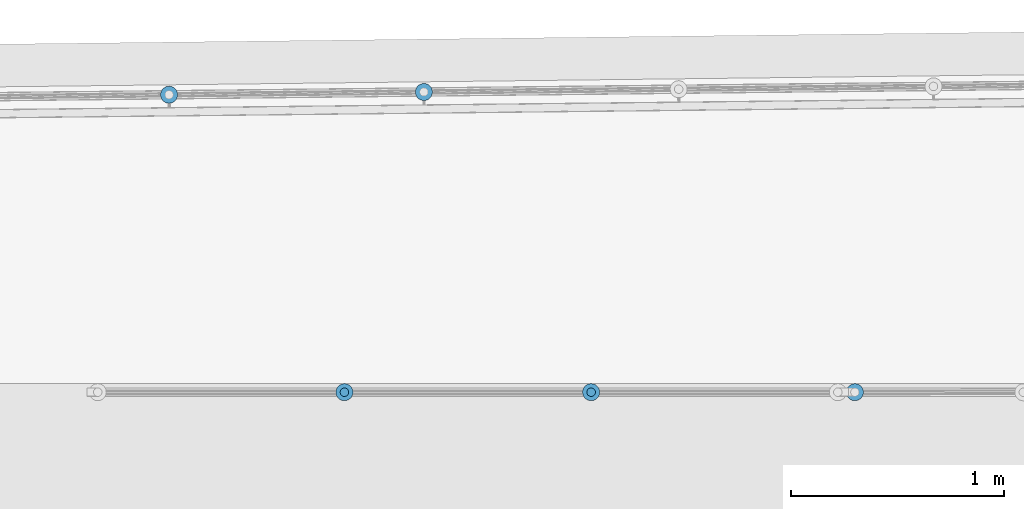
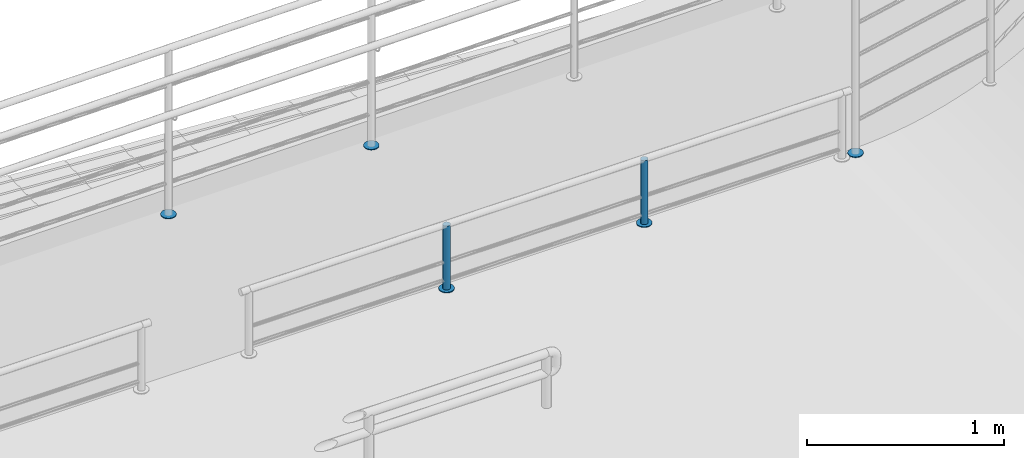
# One storey, part 115 of 237: 7 building element parts, 3 elements without a shape of their own.
"""IFC2X3 building model written with IfcOpenShell, lengths in millimetres."""

from ifc_helpers import new_model, entity, si_unit, converted_unit, derived_unit, money_unit, direction, frame, origin_with_axes, place, context, subcontext, project, spatial, faceted_brep, material, type_object, element, aggregate, save


model = new_model("IFC2X3")

# Units and contexts
model_context = context("Model", 3, precision=0.01, world=origin_with_axes(), true_north=direction((0.0, 1.0)))
body_context = subcontext(model_context, "Body", "Model", "MODEL_VIEW")
ifc_project = project(units=[si_unit("LENGTHUNIT", "METRE", prefix="MILLI"), si_unit("AREAUNIT", "SQUARE_METRE"), si_unit("VOLUMEUNIT", "CUBIC_METRE"), converted_unit("PLANEANGLEUNIT", "DEGREE", entity("IfcPlaneAngleMeasure", 0.0174532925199), si_unit("PLANEANGLEUNIT", "RADIAN"), dimensions=[0, 0, 0, 0, 0, 0, 0]), money_unit("USD"), converted_unit("TIMEUNIT", "Year", entity("IfcTimeMeasure", 31556926.0), si_unit("TIMEUNIT", "SECOND"), dimensions=[0, 0, 1, 0, 0, 0, 0]), si_unit("MASSUNIT", "GRAM", prefix="KILO"), si_unit("THERMODYNAMICTEMPERATUREUNIT", "DEGREE_CELSIUS"), si_unit("LUMINOUSINTENSITYUNIT", "LUMEN"), si_unit("ENERGYUNIT", "JOULE", prefix="MEGA"), derived_unit("THERMALCONDUCTANCEUNIT", [(si_unit("POWERUNIT", "WATT"), 1), (si_unit("LENGTHUNIT", "METRE"), -1), (si_unit("THERMODYNAMICTEMPERATUREUNIT", "KELVIN"), -1)]), derived_unit("SPECIFICHEATCAPACITYUNIT", [(si_unit("ENERGYUNIT", "JOULE"), 1), (si_unit("MASSUNIT", "GRAM", prefix="KILO"), -1), (si_unit("THERMODYNAMICTEMPERATUREUNIT", "KELVIN"), -1)]), derived_unit("MASSDENSITYUNIT", [(si_unit("MASSUNIT", "GRAM", prefix="KILO"), 1), (si_unit("VOLUMEUNIT", "CUBIC_METRE"), -1)])], contexts=[model_context])

# Site, building, storey
site_placement = place(None, origin_with_axes())
site = spatial("IfcSite", under=ifc_project, at=site_placement, Name="Local", CompositionType="ELEMENT")
building_placement = place(site_placement, origin_with_axes())
building = spatial("IfcBuilding", under=site, at=building_placement, Name="Construção", CompositionType="ELEMENT")
storey_placement = place(building_placement, origin_with_axes())
storey = spatial("IfcBuildingStorey", under=building, at=storey_placement, Name="Pavimento Térreo", CompositionType="ELEMENT", Elevation=0.0)

# Railing, building element parts
railing_type = type_object("IfcRailingType", Name="Tipo de Guarda-Corpo", PredefinedType="NOTDEFINED")
railing_1_placement = place(storey_placement, frame((70326.6870103, 28675.2458388, -1357.10819655), z_axis=(0.0, 0.0, 1.0), x_axis=(1.0, 0.0, 0.0)))
railing_1 = element("IfcRailing", 1, at=railing_1_placement, inside=storey, type_object=railing_type, Name="Guarda-Corpo - 004", PredefinedType="NOTDEFINED")
ifc_material_1 = material(Name="Alumínio")
building_element_part_1_placement = place(railing_1_placement, origin_with_axes())
building_element_part_1 = element("IfcBuildingElementPart", 2, at=building_element_part_1_placement, material=ifc_material_1, Name="Alumínio", context=body_context, shape_type="Brep", body=[
    faceted_brep([(-10735.061983, 6586.59933835, 0.0), (-10734.3787849, 6579.66043132, 0.0), (-10734.3787849, 6579.66043132, 5.0), (-10735.061983, 6586.59933835, 5.0), (-10734.5298732, 6593.55146389, 0.0), (-10732.7986234, 6600.30557113, 0.0), (-10729.9208368, 6606.65643992, 0.0), (-10725.9839534, 6612.41110235, 0.0), (-10721.1075935, 6617.3947059, 0.0), (-10715.4399228, 6621.4558263, 0.0), (-10709.1531506, 6624.47106847, 0.0), (-10702.4382972, 6626.34881579, 0.0), (-10695.4993902, 6627.03201387, 0.0), (-10688.5472647, 6626.49990407, 0.0), (-10681.7931574, 6624.76865428, 0.0), (-10675.4422886, 6621.89086765, 0.0), (-10669.6876262, 6617.95398428, 0.0), (-10664.7040226, 6613.07762436, 0.0), (-10660.6429022, 6607.40995364, 0.0), (-10657.6276601, 6601.12318141, 0.0), (-10655.7499128, 6594.40832807, 0.0), (-10655.0667147, 6587.46942104, 0.0), (-10655.5988245, 6580.5172955, 0.0), (-10657.3300743, 6573.76318827, 0.0), (-10660.2078609, 6567.41231947, 0.0), (-10664.1447443, 6561.65765704, 0.0), (-10669.0211042, 6556.67405349, 0.0), (-10674.6887749, 6552.61293309, 0.0), (-10680.9755471, 6549.59769092, 0.0), (-10687.6904005, 6547.7199436, 0.0), (-10694.6293075, 6547.03674553, 0.0), (-10701.581433, 6547.56885533, 0.0), (-10708.3355403, 6549.30010512, 0.0), (-10714.6864091, 6552.17789174, 0.0), (-10720.4410715, 6556.11477512, 0.0), (-10725.4246751, 6560.99113503, 0.0), (-10729.4857955, 6566.65880576, 0.0), (-10732.5010376, 6572.94557798, 0.0), (-10732.5010376, 6572.94557798, 5.0), (-10729.4857955, 6566.65880576, 5.0), (-10725.4246751, 6560.99113503, 5.0), (-10720.4410715, 6556.11477512, 5.0), (-10714.6864091, 6552.17789174, 5.0), (-10708.3355403, 6549.30010512, 5.0), (-10701.581433, 6547.56885533, 5.0), (-10694.6293075, 6547.03674553, 5.0), (-10687.6904005, 6547.7199436, 5.0), (-10680.9755471, 6549.59769092, 5.0), (-10674.6887749, 6552.61293309, 5.0), (-10669.0211042, 6556.67405349, 5.0), (-10664.1447443, 6561.65765704, 5.0), (-10660.2078609, 6567.41231947, 5.0), (-10657.3300743, 6573.76318827, 5.0), (-10655.5988245, 6580.5172955, 5.0), (-10655.0667147, 6587.46942104, 5.0), (-10655.7499128, 6594.40832807, 5.0), (-10657.6276601, 6601.12318141, 5.0), (-10660.6429022, 6607.40995364, 5.0), (-10664.7040226, 6613.07762436, 5.0), (-10669.6876262, 6617.95398428, 5.0), (-10675.4422886, 6621.89086765, 5.0), (-10681.7931574, 6624.76865428, 5.0), (-10688.5472647, 6626.49990407, 5.0), (-10695.4993902, 6627.03201387, 5.0), (-10702.4382972, 6626.34881579, 5.0), (-10709.1531506, 6624.47106847, 5.0), (-10715.4399228, 6621.4558263, 5.0), (-10721.1075935, 6617.3947059, 5.0), (-10725.9839534, 6612.41110235, 5.0), (-10729.9208368, 6606.65643992, 5.0), (-10732.7986234, 6600.30557113, 5.0), (-10734.5298732, 6593.55146389, 5.0)], [[[0, 1, 2, 3]], [[0, 4, 5, 6, 7, 8, 9, 10, 11, 12, 13, 14, 15, 16, 17, 18, 19, 20, 21, 22, 23, 24, 25, 26, 27, 28, 29, 30, 31, 32, 33, 34, 35, 36, 37, 1]], [[1, 37, 38, 2]], [[3, 2, 38, 39, 40, 41, 42, 43, 44, 45, 46, 47, 48, 49, 50, 51, 52, 53, 54, 55, 56, 57, 58, 59, 60, 61, 62, 63, 64, 65, 66, 67, 68, 69, 70, 71]], [[4, 0, 3, 71]], [[5, 4, 71, 70]], [[6, 5, 70, 69]], [[7, 6, 69, 68]], [[8, 7, 68, 67]], [[9, 8, 67, 66]], [[10, 9, 66, 65]], [[11, 10, 65, 64]], [[12, 11, 64, 63]], [[13, 12, 63, 62]], [[14, 13, 62, 61]], [[15, 14, 61, 60]], [[16, 15, 60, 59]], [[17, 16, 59, 58]], [[18, 17, 58, 57]], [[19, 18, 57, 56]], [[20, 19, 56, 55]], [[21, 20, 55, 54]], [[22, 21, 54, 53]], [[23, 22, 53, 52]], [[24, 23, 52, 51]], [[25, 24, 51, 50]], [[26, 25, 50, 49]], [[27, 26, 49, 48]], [[28, 27, 48, 47]], [[29, 28, 47, 46]], [[30, 29, 46, 45]], [[31, 30, 45, 44]], [[32, 31, 44, 43]], [[33, 32, 43, 42]], [[34, 33, 42, 41]], [[35, 34, 41, 40]], [[36, 35, 40, 39]], [[37, 36, 39, 38]]]),
])
building_element_part_2_placement = place(railing_1_placement, origin_with_axes())
building_element_part_2 = element("IfcBuildingElementPart", 3, at=building_element_part_2_placement, material=ifc_material_1, Name="Alumínio", context=body_context, shape_type="Brep", body=[
    faceted_brep([(-11929.6992097, 6573.60565514, 0.0), (-11929.0160116, 6566.66674811, 0.0), (-11929.0160116, 6566.66674811, 5.0), (-11929.6992097, 6573.60565514, 5.0), (-11929.1670999, 6580.55778068, 0.0), (-11927.4358501, 6587.31188791, 0.0), (-11924.5580635, 6593.66275671, 0.0), (-11920.6211801, 6599.41741914, 0.0), (-11915.7448202, 6604.40102269, 0.0), (-11910.0771495, 6608.46214309, 0.0), (-11903.7903772, 6611.47738526, 0.0), (-11897.0755239, 6613.35513258, 0.0), (-11890.1366169, 6614.03833065, 0.0), (-11883.1844913, 6613.50622085, 0.0), (-11876.4303841, 6611.77497107, 0.0), (-11870.0795153, 6608.89718444, 0.0), (-11864.3248529, 6604.96030107, 0.0), (-11859.3412493, 6600.08394115, 0.0), (-11855.2801289, 6594.41627043, 0.0), (-11852.2648868, 6588.1294982, 0.0), (-11850.3871394, 6581.41464486, 0.0), (-11849.7039414, 6574.47573783, 0.0), (-11850.2360512, 6567.52361229, 0.0), (-11851.967301, 6560.76950506, 0.0), (-11854.8450876, 6554.41863626, 0.0), (-11858.781971, 6548.66397383, 0.0), (-11863.6583309, 6543.68037028, 0.0), (-11869.3260016, 6539.61924988, 0.0), (-11875.6127738, 6536.60400771, 0.0), (-11882.3276272, 6534.72626039, 0.0), (-11889.2665342, 6534.04306232, 0.0), (-11896.2186597, 6534.57517212, 0.0), (-11902.972767, 6536.30642191, 0.0), (-11909.3236358, 6539.18420853, 0.0), (-11915.0782982, 6543.12109191, 0.0), (-11920.0619017, 6547.99745182, 0.0), (-11924.1230221, 6553.66512254, 0.0), (-11927.1382643, 6559.95189477, 0.0), (-11927.1382643, 6559.95189477, 5.0), (-11924.1230221, 6553.66512254, 5.0), (-11920.0619017, 6547.99745182, 5.0), (-11915.0782982, 6543.12109191, 5.0), (-11909.3236358, 6539.18420853, 5.0), (-11902.972767, 6536.30642191, 5.0), (-11896.2186597, 6534.57517212, 5.0), (-11889.2665342, 6534.04306232, 5.0), (-11882.3276272, 6534.72626039, 5.0), (-11875.6127738, 6536.60400771, 5.0), (-11869.3260016, 6539.61924988, 5.0), (-11863.6583309, 6543.68037028, 5.0), (-11858.781971, 6548.66397383, 5.0), (-11854.8450876, 6554.41863626, 5.0), (-11851.967301, 6560.76950506, 5.0), (-11850.2360512, 6567.52361229, 5.0), (-11849.7039414, 6574.47573783, 5.0), (-11850.3871394, 6581.41464486, 5.0), (-11852.2648868, 6588.1294982, 5.0), (-11855.2801289, 6594.41627043, 5.0), (-11859.3412493, 6600.08394115, 5.0), (-11864.3248529, 6604.96030107, 5.0), (-11870.0795153, 6608.89718444, 5.0), (-11876.4303841, 6611.77497107, 5.0), (-11883.1844913, 6613.50622085, 5.0), (-11890.1366169, 6614.03833065, 5.0), (-11897.0755239, 6613.35513258, 5.0), (-11903.7903772, 6611.47738526, 5.0), (-11910.0771495, 6608.46214309, 5.0), (-11915.7448202, 6604.40102269, 5.0), (-11920.6211801, 6599.41741914, 5.0), (-11924.5580635, 6593.66275671, 5.0), (-11927.4358501, 6587.31188791, 5.0), (-11929.1670999, 6580.55778068, 5.0)], [[[0, 1, 2, 3]], [[0, 4, 5, 6, 7, 8, 9, 10, 11, 12, 13, 14, 15, 16, 17, 18, 19, 20, 21, 22, 23, 24, 25, 26, 27, 28, 29, 30, 31, 32, 33, 34, 35, 36, 37, 1]], [[1, 37, 38, 2]], [[3, 2, 38, 39, 40, 41, 42, 43, 44, 45, 46, 47, 48, 49, 50, 51, 52, 53, 54, 55, 56, 57, 58, 59, 60, 61, 62, 63, 64, 65, 66, 67, 68, 69, 70, 71]], [[4, 0, 3, 71]], [[5, 4, 71, 70]], [[6, 5, 70, 69]], [[7, 6, 69, 68]], [[8, 7, 68, 67]], [[9, 8, 67, 66]], [[10, 9, 66, 65]], [[11, 10, 65, 64]], [[12, 11, 64, 63]], [[13, 12, 63, 62]], [[14, 13, 62, 61]], [[15, 14, 61, 60]], [[16, 15, 60, 59]], [[17, 16, 59, 58]], [[18, 17, 58, 57]], [[19, 18, 57, 56]], [[20, 19, 56, 55]], [[21, 20, 55, 54]], [[22, 21, 54, 53]], [[23, 22, 53, 52]], [[24, 23, 52, 51]], [[25, 24, 51, 50]], [[26, 25, 50, 49]], [[27, 26, 49, 48]], [[28, 27, 48, 47]], [[29, 28, 47, 46]], [[30, 29, 46, 45]], [[31, 30, 45, 44]], [[32, 31, 44, 43]], [[33, 32, 43, 42]], [[34, 33, 42, 41]], [[35, 34, 41, 40]], [[36, 35, 40, 39]], [[37, 36, 39, 38]]]),
])
aggregate(railing_1, [building_element_part_1, building_element_part_2])

# Railing, building element part
railing_2_placement = place(storey_placement, frame((61612.4440926, 28006.4497128, -1265.99547451), z_axis=(0.0, 0.0, 1.0), x_axis=(-1.0, 0.0, 0.0)))
railing_2 = element("IfcRailing", 4, at=railing_2_placement, inside=storey, type_object=railing_type, Name="Guarda-Corpo - 001", PredefinedType="NOTDEFINED")
building_element_part_3_placement = place(railing_2_placement, origin_with_axes())
building_element_part_3 = element("IfcBuildingElementPart", 5, at=building_element_part_3_placement, material=ifc_material_1, Name="Alumínio", context=body_context, shape_type="Brep", body=[
    faceted_brep([(0.0224004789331, -5848.26364543, 8.44329058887), (-0.581399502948, -5841.3173791, 8.44329058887), (-0.581399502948, -5841.3173791, 13.4432905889), (0.0224004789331, -5848.26364543, 13.4432905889), (-0.589179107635, -5855.20923114, 8.44329058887), (-2.39755572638, -5861.94309811, 8.44329058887), (-5.34778276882, -5868.2606412, 8.44329058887), (-9.35021907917, -5873.96990507, 8.44329058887), (-14.2832526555, -5878.89741663, 8.44329058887), (-19.9969957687, -5882.89345591, 8.44329058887), (-26.3178392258, -5885.83660531, 8.44329058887), (-33.0537273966, -5887.6374387, 8.44329058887), (-39.9999937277, -5888.24123868, 8.44329058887), (-46.9455794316, -5887.6296591, 8.44329058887), (-53.6794464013, -5885.82128248, 8.44329058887), (-59.9969894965, -5882.87105543, 8.44329058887), (-65.7062533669, -5878.86861912, 8.44329058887), (-70.633764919, -5873.93558555, 8.44329058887), (-74.6298042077, -5868.22184243, 8.44329058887), (-77.5729536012, -5861.90099898, 8.44329058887), (-79.3737869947, -5855.16511081, 8.44329058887), (-79.9775869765, -5848.21884448, 8.44329058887), (-79.36600739, -5841.27325877, 8.44329058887), (-77.5576307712, -5834.5393918, 8.44329058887), (-74.6074037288, -5828.22184871, 8.44329058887), (-70.6049674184, -5822.51258484, 8.44329058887), (-65.6719338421, -5817.58507328, 8.44329058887), (-59.9581907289, -5813.589034, 8.44329058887), (-53.6373472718, -5810.6458846, 8.44329058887), (-46.901459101, -5808.84505121, 8.44329058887), (-39.9551927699, -5808.24125123, 8.44329058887), (-33.009607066, -5808.85283081, 8.44329058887), (-26.2757400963, -5810.66120743, 8.44329058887), (-19.9581970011, -5813.61143447, 8.44329058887), (-14.2489331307, -5817.61387079, 8.44329058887), (-9.32142157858, -5822.54690436, 8.44329058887), (-5.32538228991, -5828.26064747, 8.44329058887), (-2.38223289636, -5834.58149093, 8.44329058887), (-2.38223289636, -5834.58149093, 13.4432905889), (-5.32538228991, -5828.26064747, 13.4432905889), (-9.32142157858, -5822.54690436, 13.4432905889), (-14.2489331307, -5817.61387079, 13.4432905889), (-19.9581970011, -5813.61143447, 13.4432905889), (-26.2757400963, -5810.66120743, 13.4432905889), (-33.009607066, -5808.85283081, 13.4432905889), (-39.9551927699, -5808.24125123, 13.4432905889), (-46.901459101, -5808.84505121, 13.4432905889), (-53.6373472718, -5810.6458846, 13.4432905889), (-59.9581907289, -5813.589034, 13.4432905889), (-65.6719338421, -5817.58507328, 13.4432905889), (-70.6049674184, -5822.51258484, 13.4432905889), (-74.6074037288, -5828.22184871, 13.4432905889), (-77.5576307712, -5834.5393918, 13.4432905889), (-79.36600739, -5841.27325877, 13.4432905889), (-79.9775869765, -5848.21884448, 13.4432905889), (-79.3737869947, -5855.16511081, 13.4432905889), (-77.5729536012, -5861.90099898, 13.4432905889), (-74.6298042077, -5868.22184243, 13.4432905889), (-70.633764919, -5873.93558555, 13.4432905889), (-65.7062533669, -5878.86861912, 13.4432905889), (-59.9969894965, -5882.87105543, 13.4432905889), (-53.6794464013, -5885.82128248, 13.4432905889), (-46.9455794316, -5887.6296591, 13.4432905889), (-39.9999937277, -5888.24123868, 13.4432905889), (-33.0537273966, -5887.6374387, 13.4432905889), (-26.3178392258, -5885.83660531, 13.4432905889), (-19.9969957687, -5882.89345591, 13.4432905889), (-14.2832526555, -5878.89741663, 13.4432905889), (-9.35021907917, -5873.96990507, 13.4432905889), (-5.34778276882, -5868.2606412, 13.4432905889), (-2.39755572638, -5861.94309811, 13.4432905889), (-0.589179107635, -5855.20923114, 13.4432905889)], [[[0, 1, 2, 3]], [[0, 4, 5, 6, 7, 8, 9, 10, 11, 12, 13, 14, 15, 16, 17, 18, 19, 20, 21, 22, 23, 24, 25, 26, 27, 28, 29, 30, 31, 32, 33, 34, 35, 36, 37, 1]], [[1, 37, 38, 2]], [[3, 2, 38, 39, 40, 41, 42, 43, 44, 45, 46, 47, 48, 49, 50, 51, 52, 53, 54, 55, 56, 57, 58, 59, 60, 61, 62, 63, 64, 65, 66, 67, 68, 69, 70, 71]], [[4, 0, 3, 71]], [[5, 4, 71, 70]], [[6, 5, 70, 69]], [[7, 6, 69, 68]], [[8, 7, 68, 67]], [[9, 8, 67, 66]], [[10, 9, 66, 65]], [[11, 10, 65, 64]], [[12, 11, 64, 63]], [[13, 12, 63, 62]], [[14, 13, 62, 61]], [[15, 14, 61, 60]], [[16, 15, 60, 59]], [[17, 16, 59, 58]], [[18, 17, 58, 57]], [[19, 18, 57, 56]], [[20, 19, 56, 55]], [[21, 20, 55, 54]], [[22, 21, 54, 53]], [[23, 22, 53, 52]], [[24, 23, 52, 51]], [[25, 24, 51, 50]], [[26, 25, 50, 49]], [[27, 26, 49, 48]], [[28, 27, 48, 47]], [[29, 28, 47, 46]], [[30, 29, 46, 45]], [[31, 30, 45, 44]], [[32, 31, 44, 43]], [[33, 32, 43, 42]], [[34, 33, 42, 41]], [[35, 34, 41, 40]], [[36, 35, 40, 39]], [[37, 36, 39, 38]]]),
])
aggregate(railing_2, [building_element_part_3])

# Railing, building element parts
railing_3_placement = place(storey_placement, frame((61612.4440926, 33894.7133519, -1887.10818411), z_axis=(0.0, 0.0, 1.0), x_axis=(-1.0, 0.0, 0.0)))
railing_3 = element("IfcRailing", 6, at=railing_3_placement, inside=storey, type_object=railing_type, Name="Guarda-Corpo - 002", PredefinedType="NOTDEFINED")
ifc_material_2 = material(Name="Aço - Inoxidável")
building_element_part_4_placement = place(railing_3_placement, origin_with_axes())
building_element_part_4 = element("IfcBuildingElementPart", 7, at=building_element_part_4_placement, material=ifc_material_2, Name="Aço - Inoxidável", context=body_context, shape_type="Brep", body=[
    faceted_brep([(1193.19370311, 20.3038449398, 635.0), (1196.66666667, 20.0, 635.0), (1196.66666667, 20.0, 1030.0), (1193.19370311, 20.3038449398, 1030.0), (1200.13963022, 20.3038449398, 635.0), (1189.8262638, 21.2061475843, 635.0), (1186.66666667, 22.6794919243, 635.0), (1183.81091447, 24.6791111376, 635.0), (1181.3457778, 27.1442478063, 635.0), (1179.34615859, 30.0, 635.0), (1177.87281425, 33.1595971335, 635.0), (1176.97051161, 36.5270364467, 635.0), (1176.66666667, 40.0, 635.0), (1176.97051161, 43.4729635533, 635.0), (1177.87281425, 46.8404028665, 635.0), (1179.34615859, 50.0, 635.0), (1181.3457778, 52.8557521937, 635.0), (1183.81091447, 55.3208888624, 635.0), (1186.66666667, 57.3205080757, 635.0), (1189.8262638, 58.7938524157, 635.0), (1193.19370311, 59.6961550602, 635.0), (1196.66666667, 60.0, 635.0), (1200.13963022, 59.6961550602, 635.0), (1203.50706953, 58.7938524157, 635.0), (1206.66666667, 57.3205080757, 635.0), (1209.52241886, 55.3208888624, 635.0), (1211.98755553, 52.8557521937, 635.0), (1213.98717474, 50.0, 635.0), (1215.46051908, 46.8404028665, 635.0), (1216.36282173, 43.4729635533, 635.0), (1216.66666667, 40.0, 635.0), (1216.36282173, 36.5270364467, 635.0), (1215.46051908, 33.1595971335, 635.0), (1213.98717474, 30.0, 635.0), (1211.98755553, 27.1442478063, 635.0), (1209.52241886, 24.6791111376, 635.0), (1206.66666667, 22.6794919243, 635.0), (1203.50706953, 21.2061475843, 635.0), (1200.13963022, 20.3038449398, 1030.0), (1176.97051161, 43.4729635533, 1030.0), (1176.66666667, 40.0, 1030.0), (1176.97051161, 36.5270364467, 1030.0), (1177.87281425, 33.1595971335, 1030.0), (1179.34615859, 30.0, 1030.0), (1181.3457778, 27.1442478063, 1030.0), (1183.81091447, 24.6791111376, 1030.0), (1186.66666667, 22.6794919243, 1030.0), (1189.8262638, 21.2061475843, 1030.0), (1203.50706953, 21.2061475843, 1030.0), (1206.66666667, 22.6794919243, 1030.0), (1209.52241886, 24.6791111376, 1030.0), (1211.98755553, 27.1442478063, 1030.0), (1213.98717474, 30.0, 1030.0), (1215.46051908, 33.1595971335, 1030.0), (1216.36282173, 36.5270364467, 1030.0), (1216.66666667, 40.0, 1030.0), (1216.36282173, 43.4729635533, 1030.0), (1215.46051908, 46.8404028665, 1030.0), (1213.98717474, 50.0, 1030.0), (1211.98755553, 52.8557521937, 1030.0), (1209.52241886, 55.3208888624, 1030.0), (1206.66666667, 57.3205080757, 1030.0), (1203.50706953, 58.7938524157, 1030.0), (1200.13963022, 59.6961550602, 1030.0), (1196.66666667, 60.0, 1030.0), (1193.19370311, 59.6961550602, 1030.0), (1189.8262638, 58.7938524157, 1030.0), (1186.66666667, 57.3205080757, 1030.0), (1183.81091447, 55.3208888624, 1030.0), (1181.3457778, 52.8557521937, 1030.0), (1179.34615859, 50.0, 1030.0), (1177.87281425, 46.8404028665, 1030.0)], [[[0, 1, 2, 3]], [[4, 1, 0, 5, 6, 7, 8, 9, 10, 11, 12, 13, 14, 15, 16, 17, 18, 19, 20, 21, 22, 23, 24, 25, 26, 27, 28, 29, 30, 31, 32, 33, 34, 35, 36, 37]], [[1, 4, 38, 2]], [[39, 40, 41, 42, 43, 44, 45, 46, 47, 3, 2, 38, 48, 49, 50, 51, 52, 53, 54, 55, 56, 57, 58, 59, 60, 61, 62, 63, 64, 65, 66, 67, 68, 69, 70, 71]], [[5, 0, 3, 47]], [[6, 5, 47, 46]], [[7, 6, 46, 45]], [[8, 7, 45, 44]], [[9, 8, 44, 43]], [[10, 9, 43, 42]], [[11, 10, 42, 41]], [[12, 11, 41, 40]], [[13, 12, 40, 39]], [[14, 13, 39, 71]], [[15, 14, 71, 70]], [[16, 15, 70, 69]], [[17, 16, 69, 68]], [[18, 17, 68, 67]], [[19, 18, 67, 66]], [[20, 19, 66, 65]], [[21, 20, 65, 64]], [[22, 21, 64, 63]], [[23, 22, 63, 62]], [[24, 23, 62, 61]], [[25, 24, 61, 60]], [[26, 25, 60, 59]], [[27, 26, 59, 58]], [[28, 27, 58, 57]], [[29, 28, 57, 56]], [[30, 29, 56, 55]], [[31, 30, 55, 54]], [[32, 31, 54, 53]], [[33, 32, 53, 52]], [[34, 33, 52, 51]], [[35, 34, 51, 50]], [[36, 35, 50, 49]], [[37, 36, 49, 48]], [[4, 37, 48, 38]]]),
])
building_element_part_5_placement = place(railing_3_placement, origin_with_axes())
building_element_part_5 = element("IfcBuildingElementPart", 8, at=building_element_part_5_placement, material=ifc_material_1, Name="Alumínio", context=body_context, shape_type="Brep", body=[
    faceted_brep([(1236.66666667, 40.0, 630.0), (1236.05897679, 46.9459271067, 630.0), (1236.05897679, 46.9459271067, 635.0), (1236.66666667, 40.0, 635.0), (1236.05897679, 33.0540728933, 630.0), (1234.2543715, 26.319194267, 630.0), (1231.30768282, 20.0, 630.0), (1227.30844439, 14.2884956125, 630.0), (1222.37817105, 9.35822227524, 630.0), (1216.66666667, 5.35898384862, 630.0), (1210.3474724, 2.41229516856, 630.0), (1203.61259377, 0.607689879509, 630.0), (1196.66666667, 0.0, 630.0), (1189.72073956, 0.607689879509, 630.0), (1182.98586093, 2.41229516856, 630.0), (1176.66666667, 5.35898384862, 630.0), (1170.95516228, 9.35822227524, 630.0), (1166.02488894, 14.2884956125, 630.0), (1162.02565052, 20.0, 630.0), (1159.07896184, 26.319194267, 630.0), (1157.27435655, 33.0540728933, 630.0), (1156.66666667, 40.0, 630.0), (1157.27435655, 46.9459271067, 630.0), (1159.07896184, 53.680805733, 630.0), (1162.02565052, 60.0, 630.0), (1166.02488894, 65.7115043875, 630.0), (1170.95516228, 70.6417777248, 630.0), (1176.66666667, 74.6410161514, 630.0), (1182.98586093, 77.5877048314, 630.0), (1189.72073956, 79.3923101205, 630.0), (1196.66666667, 80.0, 630.0), (1203.61259377, 79.3923101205, 630.0), (1210.3474724, 77.5877048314, 630.0), (1216.66666667, 74.6410161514, 630.0), (1222.37817105, 70.6417777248, 630.0), (1227.30844439, 65.7115043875, 630.0), (1231.30768282, 60.0, 630.0), (1234.2543715, 53.680805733, 630.0), (1234.2543715, 53.680805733, 635.0), (1231.30768282, 60.0, 635.0), (1227.30844439, 65.7115043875, 635.0), (1222.37817105, 70.6417777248, 635.0), (1216.66666667, 74.6410161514, 635.0), (1210.3474724, 77.5877048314, 635.0), (1203.61259377, 79.3923101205, 635.0), (1196.66666667, 80.0, 635.0), (1189.72073956, 79.3923101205, 635.0), (1182.98586093, 77.5877048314, 635.0), (1176.66666667, 74.6410161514, 635.0), (1170.95516228, 70.6417777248, 635.0), (1166.02488894, 65.7115043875, 635.0), (1162.02565052, 60.0, 635.0), (1159.07896184, 53.680805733, 635.0), (1157.27435655, 46.9459271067, 635.0), (1156.66666667, 40.0, 635.0), (1157.27435655, 33.0540728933, 635.0), (1159.07896184, 26.319194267, 635.0), (1162.02565052, 20.0, 635.0), (1166.02488894, 14.2884956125, 635.0), (1170.95516228, 9.35822227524, 635.0), (1176.66666667, 5.35898384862, 635.0), (1182.98586093, 2.41229516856, 635.0), (1189.72073956, 0.607689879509, 635.0), (1196.66666667, 0.0, 635.0), (1203.61259377, 0.607689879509, 635.0), (1210.3474724, 2.41229516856, 635.0), (1216.66666667, 5.35898384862, 635.0), (1222.37817105, 9.35822227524, 635.0), (1227.30844439, 14.2884956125, 635.0), (1231.30768282, 20.0, 635.0), (1234.2543715, 26.319194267, 635.0), (1236.05897679, 33.0540728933, 635.0)], [[[0, 1, 2, 3]], [[0, 4, 5, 6, 7, 8, 9, 10, 11, 12, 13, 14, 15, 16, 17, 18, 19, 20, 21, 22, 23, 24, 25, 26, 27, 28, 29, 30, 31, 32, 33, 34, 35, 36, 37, 1]], [[1, 37, 38, 2]], [[3, 2, 38, 39, 40, 41, 42, 43, 44, 45, 46, 47, 48, 49, 50, 51, 52, 53, 54, 55, 56, 57, 58, 59, 60, 61, 62, 63, 64, 65, 66, 67, 68, 69, 70, 71]], [[4, 0, 3, 71]], [[5, 4, 71, 70]], [[6, 5, 70, 69]], [[7, 6, 69, 68]], [[8, 7, 68, 67]], [[9, 8, 67, 66]], [[10, 9, 66, 65]], [[11, 10, 65, 64]], [[12, 11, 64, 63]], [[13, 12, 63, 62]], [[14, 13, 62, 61]], [[15, 14, 61, 60]], [[16, 15, 60, 59]], [[17, 16, 59, 58]], [[18, 17, 58, 57]], [[19, 18, 57, 56]], [[20, 19, 56, 55]], [[21, 20, 55, 54]], [[22, 21, 54, 53]], [[23, 22, 53, 52]], [[24, 23, 52, 51]], [[25, 24, 51, 50]], [[26, 25, 50, 49]], [[27, 26, 49, 48]], [[28, 27, 48, 47]], [[29, 28, 47, 46]], [[30, 29, 46, 45]], [[31, 30, 45, 44]], [[32, 31, 44, 43]], [[33, 32, 43, 42]], [[34, 33, 42, 41]], [[35, 34, 41, 40]], [[36, 35, 40, 39]], [[37, 36, 39, 38]]]),
])
building_element_part_6_placement = place(railing_3_placement, origin_with_axes())
building_element_part_6 = element("IfcBuildingElementPart", 9, at=building_element_part_6_placement, material=ifc_material_2, Name="Aço - Inoxidável", context=body_context, shape_type="Brep", body=[
    faceted_brep([(2349.86036978, 20.3038449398, 635.0), (2353.33333333, 20.0, 635.0), (2353.33333333, 20.0, 1030.0), (2349.86036978, 20.3038449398, 1030.0), (2356.80629689, 20.3038449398, 635.0), (2346.49293047, 21.2061475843, 635.0), (2343.33333333, 22.6794919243, 635.0), (2340.47758114, 24.6791111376, 635.0), (2338.01244447, 27.1442478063, 635.0), (2336.01282526, 30.0, 635.0), (2334.53948092, 33.1595971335, 635.0), (2333.63717827, 36.5270364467, 635.0), (2333.33333333, 40.0, 635.0), (2333.63717827, 43.4729635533, 635.0), (2334.53948092, 46.8404028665, 635.0), (2336.01282526, 50.0, 635.0), (2338.01244447, 52.8557521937, 635.0), (2340.47758114, 55.3208888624, 635.0), (2343.33333333, 57.3205080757, 635.0), (2346.49293047, 58.7938524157, 635.0), (2349.86036978, 59.6961550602, 635.0), (2353.33333333, 60.0, 635.0), (2356.80629689, 59.6961550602, 635.0), (2360.1737362, 58.7938524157, 635.0), (2363.33333333, 57.3205080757, 635.0), (2366.18908553, 55.3208888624, 635.0), (2368.6542222, 52.8557521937, 635.0), (2370.65384141, 50.0, 635.0), (2372.12718575, 46.8404028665, 635.0), (2373.02948839, 43.4729635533, 635.0), (2373.33333333, 40.0, 635.0), (2373.02948839, 36.5270364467, 635.0), (2372.12718575, 33.1595971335, 635.0), (2370.65384141, 30.0, 635.0), (2368.6542222, 27.1442478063, 635.0), (2366.18908553, 24.6791111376, 635.0), (2363.33333333, 22.6794919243, 635.0), (2360.1737362, 21.2061475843, 635.0), (2356.80629689, 20.3038449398, 1030.0), (2333.63717827, 43.4729635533, 1030.0), (2333.33333333, 40.0, 1030.0), (2333.63717827, 36.5270364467, 1030.0), (2334.53948092, 33.1595971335, 1030.0), (2336.01282526, 30.0, 1030.0), (2338.01244447, 27.1442478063, 1030.0), (2340.47758114, 24.6791111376, 1030.0), (2343.33333333, 22.6794919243, 1030.0), (2346.49293047, 21.2061475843, 1030.0), (2360.1737362, 21.2061475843, 1030.0), (2363.33333333, 22.6794919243, 1030.0), (2366.18908553, 24.6791111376, 1030.0), (2368.6542222, 27.1442478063, 1030.0), (2370.65384141, 30.0, 1030.0), (2372.12718575, 33.1595971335, 1030.0), (2373.02948839, 36.5270364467, 1030.0), (2373.33333333, 40.0, 1030.0), (2373.02948839, 43.4729635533, 1030.0), (2372.12718575, 46.8404028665, 1030.0), (2370.65384141, 50.0, 1030.0), (2368.6542222, 52.8557521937, 1030.0), (2366.18908553, 55.3208888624, 1030.0), (2363.33333333, 57.3205080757, 1030.0), (2360.1737362, 58.7938524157, 1030.0), (2356.80629689, 59.6961550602, 1030.0), (2353.33333333, 60.0, 1030.0), (2349.86036978, 59.6961550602, 1030.0), (2346.49293047, 58.7938524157, 1030.0), (2343.33333333, 57.3205080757, 1030.0), (2340.47758114, 55.3208888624, 1030.0), (2338.01244447, 52.8557521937, 1030.0), (2336.01282526, 50.0, 1030.0), (2334.53948092, 46.8404028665, 1030.0)], [[[0, 1, 2, 3]], [[4, 1, 0, 5, 6, 7, 8, 9, 10, 11, 12, 13, 14, 15, 16, 17, 18, 19, 20, 21, 22, 23, 24, 25, 26, 27, 28, 29, 30, 31, 32, 33, 34, 35, 36, 37]], [[1, 4, 38, 2]], [[39, 40, 41, 42, 43, 44, 45, 46, 47, 3, 2, 38, 48, 49, 50, 51, 52, 53, 54, 55, 56, 57, 58, 59, 60, 61, 62, 63, 64, 65, 66, 67, 68, 69, 70, 71]], [[5, 0, 3, 47]], [[6, 5, 47, 46]], [[7, 6, 46, 45]], [[8, 7, 45, 44]], [[9, 8, 44, 43]], [[10, 9, 43, 42]], [[11, 10, 42, 41]], [[12, 11, 41, 40]], [[13, 12, 40, 39]], [[14, 13, 39, 71]], [[15, 14, 71, 70]], [[16, 15, 70, 69]], [[17, 16, 69, 68]], [[18, 17, 68, 67]], [[19, 18, 67, 66]], [[20, 19, 66, 65]], [[21, 20, 65, 64]], [[22, 21, 64, 63]], [[23, 22, 63, 62]], [[24, 23, 62, 61]], [[25, 24, 61, 60]], [[26, 25, 60, 59]], [[27, 26, 59, 58]], [[28, 27, 58, 57]], [[29, 28, 57, 56]], [[30, 29, 56, 55]], [[31, 30, 55, 54]], [[32, 31, 54, 53]], [[33, 32, 53, 52]], [[34, 33, 52, 51]], [[35, 34, 51, 50]], [[36, 35, 50, 49]], [[37, 36, 49, 48]], [[4, 37, 48, 38]]]),
])
building_element_part_7_placement = place(railing_3_placement, origin_with_axes())
building_element_part_7 = element("IfcBuildingElementPart", 10, at=building_element_part_7_placement, material=ifc_material_1, Name="Alumínio", context=body_context, shape_type="Brep", body=[
    faceted_brep([(2393.33333333, 40.0, 630.0), (2392.72564345, 46.9459271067, 630.0), (2392.72564345, 46.9459271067, 635.0), (2393.33333333, 40.0, 635.0), (2392.72564345, 33.0540728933, 630.0), (2390.92103816, 26.319194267, 630.0), (2387.97434948, 20.0, 630.0), (2383.97511106, 14.2884956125, 630.0), (2379.04483772, 9.35822227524, 630.0), (2373.33333333, 5.35898384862, 630.0), (2367.01413907, 2.41229516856, 630.0), (2360.27926044, 0.607689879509, 630.0), (2353.33333333, 0.0, 630.0), (2346.38740623, 0.607689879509, 630.0), (2339.6525276, 2.41229516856, 630.0), (2333.33333333, 5.35898384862, 630.0), (2327.62182895, 9.35822227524, 630.0), (2322.69155561, 14.2884956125, 630.0), (2318.69231718, 20.0, 630.0), (2315.7456285, 26.319194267, 630.0), (2313.94102321, 33.0540728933, 630.0), (2313.33333333, 40.0, 630.0), (2313.94102321, 46.9459271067, 630.0), (2315.7456285, 53.680805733, 630.0), (2318.69231718, 60.0, 630.0), (2322.69155561, 65.7115043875, 630.0), (2327.62182895, 70.6417777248, 630.0), (2333.33333333, 74.6410161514, 630.0), (2339.6525276, 77.5877048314, 630.0), (2346.38740623, 79.3923101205, 630.0), (2353.33333333, 80.0, 630.0), (2360.27926044, 79.3923101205, 630.0), (2367.01413907, 77.5877048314, 630.0), (2373.33333333, 74.6410161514, 630.0), (2379.04483772, 70.6417777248, 630.0), (2383.97511106, 65.7115043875, 630.0), (2387.97434948, 60.0, 630.0), (2390.92103816, 53.680805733, 630.0), (2390.92103816, 53.680805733, 635.0), (2387.97434948, 60.0, 635.0), (2383.97511106, 65.7115043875, 635.0), (2379.04483772, 70.6417777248, 635.0), (2373.33333333, 74.6410161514, 635.0), (2367.01413907, 77.5877048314, 635.0), (2360.27926044, 79.3923101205, 635.0), (2353.33333333, 80.0, 635.0), (2346.38740623, 79.3923101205, 635.0), (2339.6525276, 77.5877048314, 635.0), (2333.33333333, 74.6410161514, 635.0), (2327.62182895, 70.6417777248, 635.0), (2322.69155561, 65.7115043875, 635.0), (2318.69231718, 60.0, 635.0), (2315.7456285, 53.680805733, 635.0), (2313.94102321, 46.9459271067, 635.0), (2313.33333333, 40.0, 635.0), (2313.94102321, 33.0540728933, 635.0), (2315.7456285, 26.319194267, 635.0), (2318.69231718, 20.0, 635.0), (2322.69155561, 14.2884956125, 635.0), (2327.62182895, 9.35822227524, 635.0), (2333.33333333, 5.35898384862, 635.0), (2339.6525276, 2.41229516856, 635.0), (2346.38740623, 0.607689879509, 635.0), (2353.33333333, 0.0, 635.0), (2360.27926044, 0.607689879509, 635.0), (2367.01413907, 2.41229516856, 635.0), (2373.33333333, 5.35898384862, 635.0), (2379.04483772, 9.35822227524, 635.0), (2383.97511106, 14.2884956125, 635.0), (2387.97434948, 20.0, 635.0), (2390.92103816, 26.319194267, 635.0), (2392.72564345, 33.0540728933, 635.0)], [[[0, 1, 2, 3]], [[0, 4, 5, 6, 7, 8, 9, 10, 11, 12, 13, 14, 15, 16, 17, 18, 19, 20, 21, 22, 23, 24, 25, 26, 27, 28, 29, 30, 31, 32, 33, 34, 35, 36, 37, 1]], [[1, 37, 38, 2]], [[3, 2, 38, 39, 40, 41, 42, 43, 44, 45, 46, 47, 48, 49, 50, 51, 52, 53, 54, 55, 56, 57, 58, 59, 60, 61, 62, 63, 64, 65, 66, 67, 68, 69, 70, 71]], [[4, 0, 3, 71]], [[5, 4, 71, 70]], [[6, 5, 70, 69]], [[7, 6, 69, 68]], [[8, 7, 68, 67]], [[9, 8, 67, 66]], [[10, 9, 66, 65]], [[11, 10, 65, 64]], [[12, 11, 64, 63]], [[13, 12, 63, 62]], [[14, 13, 62, 61]], [[15, 14, 61, 60]], [[16, 15, 60, 59]], [[17, 16, 59, 58]], [[18, 17, 58, 57]], [[19, 18, 57, 56]], [[20, 19, 56, 55]], [[21, 20, 55, 54]], [[22, 21, 54, 53]], [[23, 22, 53, 52]], [[24, 23, 52, 51]], [[25, 24, 51, 50]], [[26, 25, 50, 49]], [[27, 26, 49, 48]], [[28, 27, 48, 47]], [[29, 28, 47, 46]], [[30, 29, 46, 45]], [[31, 30, 45, 44]], [[32, 31, 44, 43]], [[33, 32, 43, 42]], [[34, 33, 42, 41]], [[35, 34, 41, 40]], [[36, 35, 40, 39]], [[37, 36, 39, 38]]]),
])
aggregate(railing_3, [building_element_part_4, building_element_part_5, building_element_part_6, building_element_part_7])

save(model, "model.ifc")
